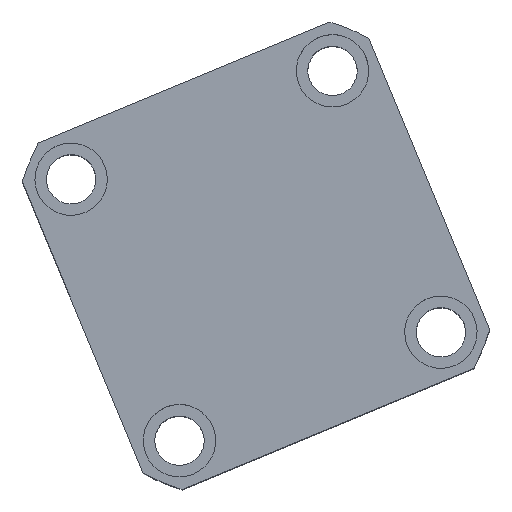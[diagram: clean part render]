
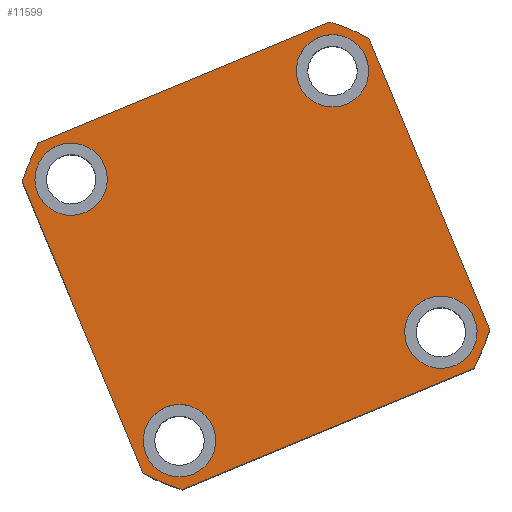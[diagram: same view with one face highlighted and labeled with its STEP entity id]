
A CAD part, top view. The second image highlights one B-rep face of the part: STEP entity #11599.
In plain terms, the highlighted planar face has unit normal (0, 0, 1) as drawn and (0, 0, -1) by its records, which use the part's own axes.
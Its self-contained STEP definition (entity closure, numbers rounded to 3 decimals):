
#61 = DIRECTION ( 'NONE',  ( 0., 0., 1. ) ) ;
#98 = ORIENTED_EDGE ( 'NONE', *, *, #9343, .F. ) ;
#321 = VERTEX_POINT ( 'NONE', #13036 ) ;
#412 = CARTESIAN_POINT ( 'NONE',  ( -57., 57., 0. ) ) ;
#419 = DIRECTION ( 'NONE',  ( 0., 0., 1. ) ) ;
#901 = EDGE_CURVE ( 'NONE', #10947, #12214, #3933, .T. ) ;
#1085 = CARTESIAN_POINT ( 'NONE',  ( -43., -43., 0. ) ) ;
#1189 = VERTEX_POINT ( 'NONE', #3676 ) ;
#1219 = DIRECTION ( 'NONE',  ( 0., 0., -1. ) ) ;
#1485 = ORIENTED_EDGE ( 'NONE', *, *, #11562, .F. ) ;
#1592 = DIRECTION ( 'NONE',  ( 0., 0., -1. ) ) ;
#1766 = ORIENTED_EDGE ( 'NONE', *, *, #9400, .F. ) ;
#1775 = VERTEX_POINT ( 'NONE', #12219 ) ;
#2080 = EDGE_LOOP ( 'NONE', ( #1766, #8271 ) ) ;
#2114 = DIRECTION ( 'NONE',  ( 1., 0., 0. ) ) ;
#2258 = DIRECTION ( 'NONE',  ( -1., 0., 0. ) ) ;
#2351 = EDGE_CURVE ( 'NONE', #4709, #7155, #9365, .T. ) ;
#2449 = CARTESIAN_POINT ( 'NONE',  ( 54., 43., 0. ) ) ;
#2453 = ORIENTED_EDGE ( 'NONE', *, *, #3596, .F. ) ;
#2466 = DIRECTION ( 'NONE',  ( 0., 0., -1. ) ) ;
#2484 = CARTESIAN_POINT ( 'NONE',  ( 43., 43., 0. ) ) ;
#2503 = ORIENTED_EDGE ( 'NONE', *, *, #14739, .F. ) ;
#2597 = CARTESIAN_POINT ( 'NONE',  ( 0., 0., 0. ) ) ;
#2807 = DIRECTION ( 'NONE',  ( 1., 0., 0. ) ) ;
#2905 = EDGE_CURVE ( 'NONE', #8199, #6009, #4079, .T. ) ;
#3158 = VERTEX_POINT ( 'NONE', #8376 ) ;
#3303 = CIRCLE ( 'NONE', #4566, 74.5 ) ;
#3458 = FACE_BOUND ( 'NONE', #4514, .T. ) ;
#3476 = DIRECTION ( 'NONE',  ( 0., 0., -1. ) ) ;
#3514 = EDGE_CURVE ( 'NONE', #12214, #3158, #9190, .T. ) ;
#3596 = EDGE_CURVE ( 'NONE', #1189, #321, #5745, .T. ) ;
#3649 = DIRECTION ( 'NONE',  ( -1., 0., 0. ) ) ;
#3676 = CARTESIAN_POINT ( 'NONE',  ( -54., 43., 0. ) ) ;
#3764 = DIRECTION ( 'NONE',  ( 1., 0., 0. ) ) ;
#3933 = CIRCLE ( 'NONE', #14938, 74.5 ) ;
#3940 = CARTESIAN_POINT ( 'NONE',  ( -54., -43., 0. ) ) ;
#4079 = CIRCLE ( 'NONE', #4583, 11. ) ;
#4082 = CARTESIAN_POINT ( 'NONE',  ( 57., 47.971, 0. ) ) ;
#4116 = VERTEX_POINT ( 'NONE', #9872 ) ;
#4122 = VERTEX_POINT ( 'NONE', #2449 ) ;
#4136 = AXIS2_PLACEMENT_3D ( 'NONE', #11202, #4189, #12457 ) ;
#4172 = VECTOR ( 'NONE', #9415, 1000. ) ;
#4175 = AXIS2_PLACEMENT_3D ( 'NONE', #1085, #9215, #2258 ) ;
#4189 = DIRECTION ( 'NONE',  ( 0., 0., 1. ) ) ;
#4243 = AXIS2_PLACEMENT_3D ( 'NONE', #8561, #1592, #9728 ) ;
#4334 = VECTOR ( 'NONE', #9187, 1000. ) ;
#4466 = EDGE_LOOP ( 'NONE', ( #2453, #5235 ) ) ;
#4514 = EDGE_LOOP ( 'NONE', ( #13951, #98 ) ) ;
#4566 = AXIS2_PLACEMENT_3D ( 'NONE', #2597, #10760, #3764 ) ;
#4583 = AXIS2_PLACEMENT_3D ( 'NONE', #8495, #7376, #13367 ) ;
#4596 = EDGE_CURVE ( 'NONE', #321, #1189, #9350, .T. ) ;
#4709 = VERTEX_POINT ( 'NONE', #7114 ) ;
#4719 = CARTESIAN_POINT ( 'NONE',  ( 0., 0., 0. ) ) ;
#4742 = EDGE_CURVE ( 'NONE', #4122, #4116, #8984, .T. ) ;
#4760 = DIRECTION ( 'NONE',  ( 0., 0., -1. ) ) ;
#4900 = DIRECTION ( 'NONE',  ( -1., 0., 0. ) ) ;
#5003 = VERTEX_POINT ( 'NONE', #10623 ) ;
#5235 = ORIENTED_EDGE ( 'NONE', *, *, #4596, .F. ) ;
#5338 = AXIS2_PLACEMENT_3D ( 'NONE', #9428, #2466, #10620 ) ;
#5344 = CARTESIAN_POINT ( 'NONE',  ( -57., -57., 0. ) ) ;
#5628 = ORIENTED_EDGE ( 'NONE', *, *, #3514, .F. ) ;
#5745 = CIRCLE ( 'NONE', #11682, 11. ) ;
#5887 = CARTESIAN_POINT ( 'NONE',  ( -32., -43., 0. ) ) ;
#5960 = EDGE_LOOP ( 'NONE', ( #6041, #8319, #9112, #2503, #1485, #15211, #7203, #5628 ) ) ;
#5997 = EDGE_CURVE ( 'NONE', #5003, #6427, #6388, .T. ) ;
#6009 = VERTEX_POINT ( 'NONE', #5887 ) ;
#6041 = ORIENTED_EDGE ( 'NONE', *, *, #901, .F. ) ;
#6155 = FACE_OUTER_BOUND ( 'NONE', #5960, .T. ) ;
#6282 = VERTEX_POINT ( 'NONE', #9773 ) ;
#6388 = CIRCLE ( 'NONE', #5338, 11. ) ;
#6427 = VERTEX_POINT ( 'NONE', #12665 ) ;
#6512 = DIRECTION ( 'NONE',  ( 1., 0., 0. ) ) ;
#6517 = AXIS2_PLACEMENT_3D ( 'NONE', #10461, #3476, #11707 ) ;
#6543 = VECTOR ( 'NONE', #6512, 1000. ) ;
#6636 = CARTESIAN_POINT ( 'NONE',  ( 0., 0., 0. ) ) ;
#6712 = AXIS2_PLACEMENT_3D ( 'NONE', #8182, #1219, #9348 ) ;
#6748 = CIRCLE ( 'NONE', #4243, 11. ) ;
#7114 = CARTESIAN_POINT ( 'NONE',  ( 47.971, -57., 0. ) ) ;
#7155 = VERTEX_POINT ( 'NONE', #7629 ) ;
#7203 = ORIENTED_EDGE ( 'NONE', *, *, #12381, .F. ) ;
#7248 = AXIS2_PLACEMENT_3D ( 'NONE', #6636, #14921, #7804 ) ;
#7376 = DIRECTION ( 'NONE',  ( 0., 0., -1. ) ) ;
#7629 = CARTESIAN_POINT ( 'NONE',  ( 57., -47.971, 0. ) ) ;
#7633 = LINE ( 'NONE', #8242, #4172 ) ;
#7804 = DIRECTION ( 'NONE',  ( 1., 0., 0. ) ) ;
#8182 = CARTESIAN_POINT ( 'NONE',  ( -43., 43., 0. ) ) ;
#8199 = VERTEX_POINT ( 'NONE', #3940 ) ;
#8242 = CARTESIAN_POINT ( 'NONE',  ( -57., 57., 0. ) ) ;
#8271 = ORIENTED_EDGE ( 'NONE', *, *, #5997, .F. ) ;
#8319 = ORIENTED_EDGE ( 'NONE', *, *, #12066, .F. ) ;
#8376 = CARTESIAN_POINT ( 'NONE',  ( -47.971, 57., 0. ) ) ;
#8495 = CARTESIAN_POINT ( 'NONE',  ( -43., -43., 0. ) ) ;
#8561 = CARTESIAN_POINT ( 'NONE',  ( 43., 43., 0. ) ) ;
#8590 = VERTEX_POINT ( 'NONE', #14699 ) ;
#8793 = VECTOR ( 'NONE', #4900, 1000. ) ;
#8984 = CIRCLE ( 'NONE', #10614, 11. ) ;
#9112 = ORIENTED_EDGE ( 'NONE', *, *, #2351, .F. ) ;
#9187 = DIRECTION ( 'NONE',  ( 0., 1., 0. ) ) ;
#9190 = LINE ( 'NONE', #412, #8793 ) ;
#9215 = DIRECTION ( 'NONE',  ( 0., 0., -1. ) ) ;
#9269 = FACE_BOUND ( 'NONE', #2080, .T. ) ;
#9343 = EDGE_CURVE ( 'NONE', #6009, #8199, #13044, .T. ) ;
#9348 = DIRECTION ( 'NONE',  ( -1., 0., 0. ) ) ;
#9350 = CIRCLE ( 'NONE', #6712, 11. ) ;
#9365 = CIRCLE ( 'NONE', #9504, 74.5 ) ;
#9400 = EDGE_CURVE ( 'NONE', #6427, #5003, #9447, .T. ) ;
#9407 = CARTESIAN_POINT ( 'NONE',  ( 0., 0., 0. ) ) ;
#9415 = DIRECTION ( 'NONE',  ( 0., -1., 0. ) ) ;
#9428 = CARTESIAN_POINT ( 'NONE',  ( 43., -43., 0. ) ) ;
#9447 = CIRCLE ( 'NONE', #6517, 11. ) ;
#9504 = AXIS2_PLACEMENT_3D ( 'NONE', #9407, #61, #2114 ) ;
#9728 = DIRECTION ( 'NONE',  ( -1., 0., 0. ) ) ;
#9773 = CARTESIAN_POINT ( 'NONE',  ( -47.971, -57., 0. ) ) ;
#9872 = CARTESIAN_POINT ( 'NONE',  ( 32., 43., 0. ) ) ;
#9986 = FACE_BOUND ( 'NONE', #4466, .T. ) ;
#9999 = LINE ( 'NONE', #5344, #6543 ) ;
#10037 = PLANE ( 'NONE',  #7248 ) ;
#10461 = CARTESIAN_POINT ( 'NONE',  ( 43., -43., 0. ) ) ;
#10614 = AXIS2_PLACEMENT_3D ( 'NONE', #2484, #10640, #3649 ) ;
#10620 = DIRECTION ( 'NONE',  ( -1., 0., 0. ) ) ;
#10623 = CARTESIAN_POINT ( 'NONE',  ( 54., -43., 0. ) ) ;
#10640 = DIRECTION ( 'NONE',  ( 0., 0., -1. ) ) ;
#10760 = DIRECTION ( 'NONE',  ( 0., 0., 1. ) ) ;
#10947 = VERTEX_POINT ( 'NONE', #4082 ) ;
#11098 = ORIENTED_EDGE ( 'NONE', *, *, #13963, .F. ) ;
#11202 = CARTESIAN_POINT ( 'NONE',  ( 0., 0., 0. ) ) ;
#11562 = EDGE_CURVE ( 'NONE', #1775, #6282, #13208, .T. ) ;
#11599 = ADVANCED_FACE ( 'NONE', ( #3458, #9269, #12483, #9986, #6155 ), #10037, .F. ) ;
#11682 = AXIS2_PLACEMENT_3D ( 'NONE', #15242, #4760, #14199 ) ;
#11707 = DIRECTION ( 'NONE',  ( -1., 0., 0. ) ) ;
#11877 = CARTESIAN_POINT ( 'NONE',  ( 47.971, 57., 0. ) ) ;
#12066 = EDGE_CURVE ( 'NONE', #7155, #10947, #13380, .T. ) ;
#12214 = VERTEX_POINT ( 'NONE', #11877 ) ;
#12219 = CARTESIAN_POINT ( 'NONE',  ( -57., -47.971, 0. ) ) ;
#12381 = EDGE_CURVE ( 'NONE', #3158, #8590, #3303, .T. ) ;
#12457 = DIRECTION ( 'NONE',  ( 1., 0., 0. ) ) ;
#12483 = FACE_BOUND ( 'NONE', #12792, .T. ) ;
#12665 = CARTESIAN_POINT ( 'NONE',  ( 32., -43., 0. ) ) ;
#12792 = EDGE_LOOP ( 'NONE', ( #11098, #14290 ) ) ;
#13036 = CARTESIAN_POINT ( 'NONE',  ( -32., 43., 0. ) ) ;
#13044 = CIRCLE ( 'NONE', #4175, 11. ) ;
#13208 = CIRCLE ( 'NONE', #4136, 74.5 ) ;
#13367 = DIRECTION ( 'NONE',  ( -1., 0., 0. ) ) ;
#13380 = LINE ( 'NONE', #14026, #4334 ) ;
#13951 = ORIENTED_EDGE ( 'NONE', *, *, #2905, .F. ) ;
#13963 = EDGE_CURVE ( 'NONE', #4116, #4122, #6748, .T. ) ;
#14026 = CARTESIAN_POINT ( 'NONE',  ( 57., 57., 0. ) ) ;
#14199 = DIRECTION ( 'NONE',  ( -1., 0., 0. ) ) ;
#14290 = ORIENTED_EDGE ( 'NONE', *, *, #4742, .F. ) ;
#14422 = EDGE_CURVE ( 'NONE', #8590, #1775, #7633, .T. ) ;
#14699 = CARTESIAN_POINT ( 'NONE',  ( -57., 47.971, 0. ) ) ;
#14739 = EDGE_CURVE ( 'NONE', #6282, #4709, #9999, .T. ) ;
#14921 = DIRECTION ( 'NONE',  ( 0., 0., 1. ) ) ;
#14938 = AXIS2_PLACEMENT_3D ( 'NONE', #4719, #419, #2807 ) ;
#15211 = ORIENTED_EDGE ( 'NONE', *, *, #14422, .F. ) ;
#15242 = CARTESIAN_POINT ( 'NONE',  ( -43., 43., 0. ) ) ;
